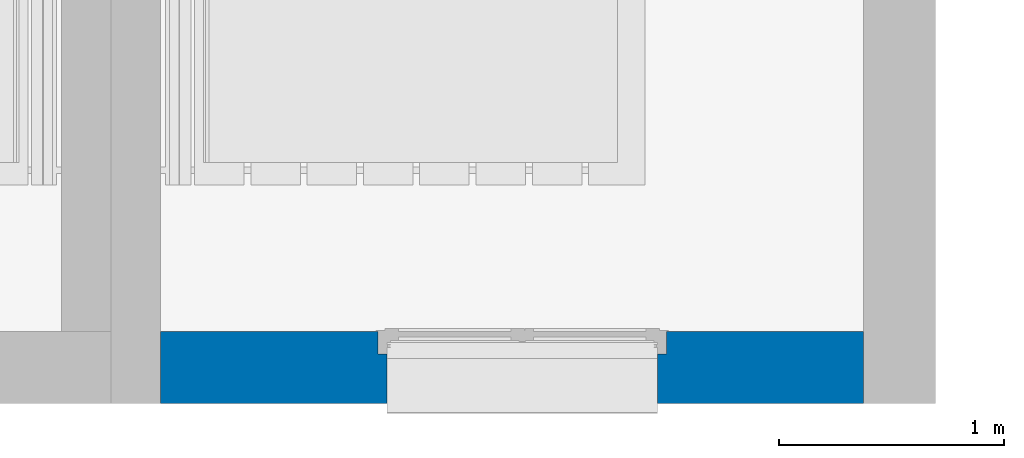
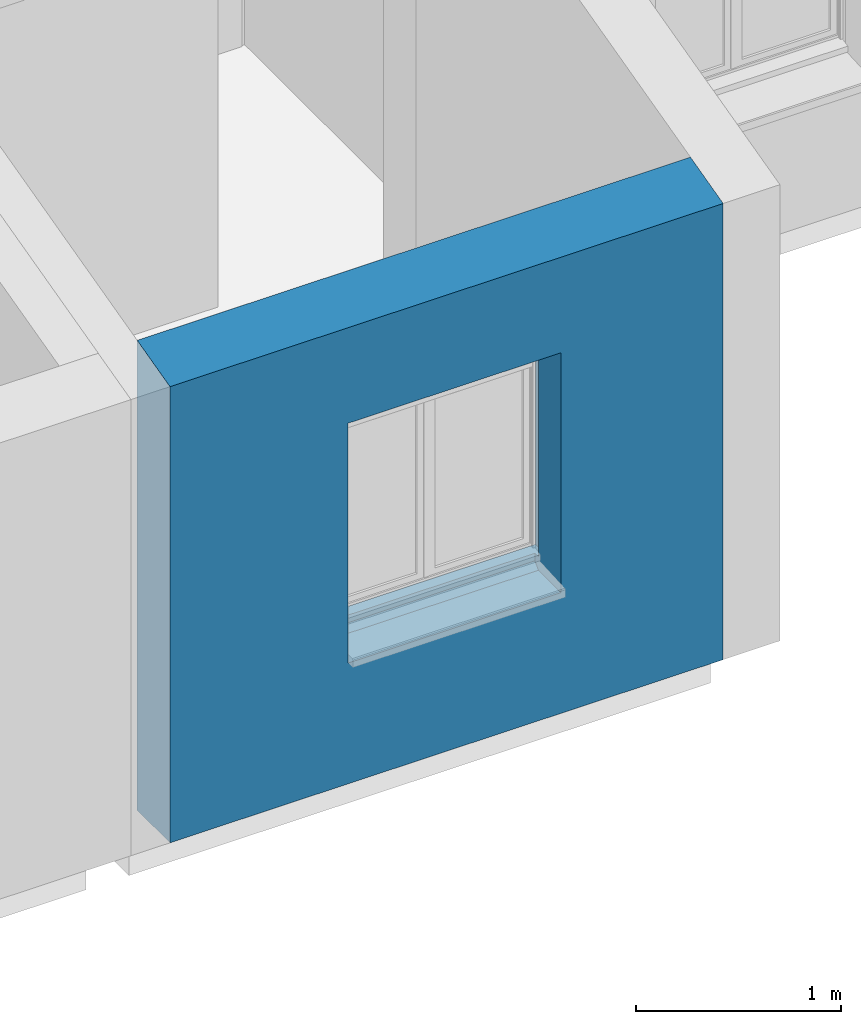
# One storey, part 13 of 50: 1 wall, 1 opening.
"""IFC2X3 building model written with IfcOpenShell, lengths in metres."""

from ifc_helpers import new_model, entity, si_unit, converted_unit, derived_unit, direction, frame, frame_2d, origin, place, context, subcontext, project, spatial, polyline, rectangle, extrude, clip, bounded_halfspace, faceted_brep, material, layer, layer_set, layer_usage, type_object, element, save


model = new_model("IFC2X3")

# Units and contexts
model_context = context("Model", 3, precision=1e-05, world=origin(), true_north=direction((6.12303176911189e-17, 1.0)))
context_of_model = context(None, 3, precision=1e-05, world=origin(), true_north=direction((6.12303176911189e-17, 1.0)))
body_context = subcontext(model_context, "Body", "Model", "MODEL_VIEW")
ifc_project = project(units=[si_unit("LENGTHUNIT", "METRE"), si_unit("AREAUNIT", "SQUARE_METRE"), si_unit("VOLUMEUNIT", "CUBIC_METRE"), converted_unit("PLANEANGLEUNIT", "DEGREE", entity("IfcRatioMeasure", 0.0174532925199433), si_unit("PLANEANGLEUNIT", "RADIAN"), dimensions=[0, 0, 0, 0, 0, 0, 0]), si_unit("MASSUNIT", "GRAM", prefix="KILO"), si_unit("TIMEUNIT", "SECOND"), si_unit("FREQUENCYUNIT", "HERTZ"), si_unit("THERMODYNAMICTEMPERATUREUNIT", "DEGREE_CELSIUS"), derived_unit("THERMALTRANSMITTANCEUNIT", [(si_unit("MASSUNIT", "GRAM", prefix="KILO"), 1), (si_unit("THERMODYNAMICTEMPERATUREUNIT", "KELVIN"), -1), (si_unit("TIMEUNIT", "SECOND"), -3)]), derived_unit("VOLUMETRICFLOWRATEUNIT", [(si_unit("LENGTHUNIT", "METRE"), 3), (si_unit("TIMEUNIT", "SECOND"), -1)]), si_unit("ELECTRICCURRENTUNIT", "AMPERE"), si_unit("ELECTRICVOLTAGEUNIT", "VOLT"), si_unit("POWERUNIT", "WATT"), si_unit("FORCEUNIT", "NEWTON", prefix="KILO"), si_unit("ILLUMINANCEUNIT", "LUX"), si_unit("LUMINOUSFLUXUNIT", "LUMEN"), si_unit("LUMINOUSINTENSITYUNIT", "CANDELA"), si_unit("PRESSUREUNIT", "PASCAL")], contexts=[model_context, context_of_model])

# Site, building, storey
site_placement = place(None, origin())
site = spatial("IfcSite", under=ifc_project, at=site_placement, Name="Surface", CompositionType="ELEMENT")
building_placement = place(site_placement, origin())
building = spatial("IfcBuilding", under=site, at=building_placement, CompositionType="ELEMENT")
storey_placement = place(building_placement, frame((0.0, 0.0, 2.82)))
storey = spatial("IfcBuildingStorey", under=building, at=storey_placement, Name="ETAGE", CompositionType="ELEMENT", Elevation=2.82)

# Wall, opening
ifc_material_1 = material(Name="Enduit  gris")
ifc_layer_1 = layer(ifc_material_1, 0.02)
ifc_material_2 = material(Name="Parpaing")
ifc_layer_2 = layer(ifc_material_2, 0.2)
ifc_material_3 = material(Name="Isolant")
ifc_layer_3 = layer(ifc_material_3, 0.1)
ifc_layer_set = layer_set([ifc_layer_1, ifc_layer_2, ifc_layer_3], Name="Mur de base:Ext. Parpaing 20 + Isolant 10 enduit gris")
ifc_layer_usage = layer_usage(ifc_layer_set, "AXIS2", "NEGATIVE", 0.16)
wall_type = type_object("IfcWallType", Name="Mur de base:Ext. Parpaing 20 + Isolant 10 enduit gris", PredefinedType="STANDARD", material=ifc_layer_set)
wall_placement = place(storey_placement, frame((72.174626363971, 77.0477566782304, 0.0), z_axis=(0.0, 0.0, 1.0), x_axis=(-1.0, 0.0, 0.0)))
wall = element("IfcWallStandardCase", 1, at=wall_placement, inside=storey, type_object=wall_type, material=ifc_layer_usage, Name="Mur de base:Ext. Parpaing 20 + Isolant 10 enduit gris", ObjectType="Mur de base:Ext. Parpaing 20 + Isolant 10 enduit gris", context=body_context, shape_type="Clipping", body=[
    clip(extrude(rectangle(XDim=3.12038340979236, YDim=0.319999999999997, at=frame_2d((1.56019170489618, 0.0), x_axis=(-1.0, 0.0))), origin(), (0.0, 0.0, 1.0), 2.8022236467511), bounded_halfspace(frame((0.0, -0.159999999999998, 2.8022236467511), z_axis=(0.0, 0.248864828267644, 0.968538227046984), x_axis=(-1.0, 0.0, 0.0)), False, frame((0.0, -0.159999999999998, 2.8022236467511)), polyline([(0.0, 0.0), (3.12038340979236, 0.0), (3.12038340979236, 0.319999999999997), (0.0, 0.319999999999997), (0.0, 0.0)]))),
])
opening_placement = place(wall_placement, frame((2.16499999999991, 0.500000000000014, 0.719999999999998), z_axis=(0.0, 0.0, 1.0), x_axis=(-1.0, 0.0, 0.0)))
element("IfcOpeningElement", 2, at=opening_placement, cuts=wall, Name="Mur de base:Ext. Parpaing 20 + Isolant 10 enduit gris", ObjectType="Opening", context=body_context, shape_type="Brep", body=[
    faceted_brep([(0.050000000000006, 1.0, 1.43), (1.25, 1.0, 1.43), (1.25, 1.0, 0.0800000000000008), (0.050000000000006, 1.0, 0.0800000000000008), (0.0499999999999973, 0.0, 1.43), (0.0499999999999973, 0.0, 0.0800000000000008), (1.24999999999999, 0.0, 0.0800000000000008), (1.24999999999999, 0.0, 1.43), (0.0499999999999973, 0.673000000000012, 1.43), (1.24999999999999, 0.673000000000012, 1.43), (1.25, 0.673000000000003, 0.0800000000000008), (1.29, 0.673000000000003, 0.0800000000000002), (1.29, 0.560000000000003, 0.0800000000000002), (1.25, 0.560000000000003, 0.0800000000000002), (1.25, 0.594999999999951, 0.0800000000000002), (0.0499999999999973, 0.594999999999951, 0.0800000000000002), (0.0499999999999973, 0.560000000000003, 0.0800000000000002), (0.0100000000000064, 0.560000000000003, 0.0800000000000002), (0.0100000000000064, 0.673000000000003, 0.0800000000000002), (0.0499999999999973, 0.673000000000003, 0.0800000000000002), (0.00999999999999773, 0.673000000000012, 1.47), (1.29, 0.673000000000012, 1.47), (1.29, 0.560000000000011, 1.47), (1.3, 0.560000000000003, 1.47), (1.3, 0.560000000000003, 1.65), (0.0, 0.560000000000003, 1.65), (0.0, 0.560000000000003, 1.47), (0.0100000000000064, 0.560000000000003, 1.47), (0.0499999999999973, 0.560000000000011, 1.43), (1.24999999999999, 0.560000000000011, 1.43), (1.3, 0.693000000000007, 1.65), (1.3, 0.693000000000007, 1.47), (0.0, 0.693000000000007, 1.65), (0.0, 0.693000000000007, 1.47), (1.25, 0.560000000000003, 0.0), (0.050000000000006, 0.560000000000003, 0.0), (0.0499999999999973, 0.594999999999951, 0.0349999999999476), (1.25, 0.594999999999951, 0.0349999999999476), (1.25, 0.294999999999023, 0.0800000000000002), (0.0499999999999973, 0.294999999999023, 0.0800000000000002), (0.0499999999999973, 0.294999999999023, 0.0), (1.25, 0.294999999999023, 0.0)], [[[0, 1, 2, 3]], [[4, 5, 6, 7]], [[0, 8, 9, 1]], [[1, 9, 10, 2]], [[2, 10, 11, 12, 13, 14, 15, 16, 17, 18, 19, 3]], [[3, 19, 8, 0]], [[10, 9, 8, 19, 18, 20, 21, 11]], [[11, 21, 22, 12]], [[12, 22, 23, 24, 25, 26, 27, 17, 16, 28, 29, 13]], [[18, 17, 27, 20]], [[30, 24, 23, 31]], [[32, 33, 26, 25]], [[30, 32, 25, 24]], [[23, 22, 21, 20, 27, 26, 33, 31]], [[31, 33, 32, 30]], [[34, 35, 36, 37]], [[37, 36, 15, 14]], [[38, 39, 40, 41]], [[41, 40, 35, 34]], [[4, 28, 16, 15, 36, 35, 40, 39, 5]], [[5, 39, 38, 6]], [[6, 38, 41, 34, 37, 14, 13, 29, 7]], [[7, 29, 28, 4]]]),
])

save(model, "model.ifc")
